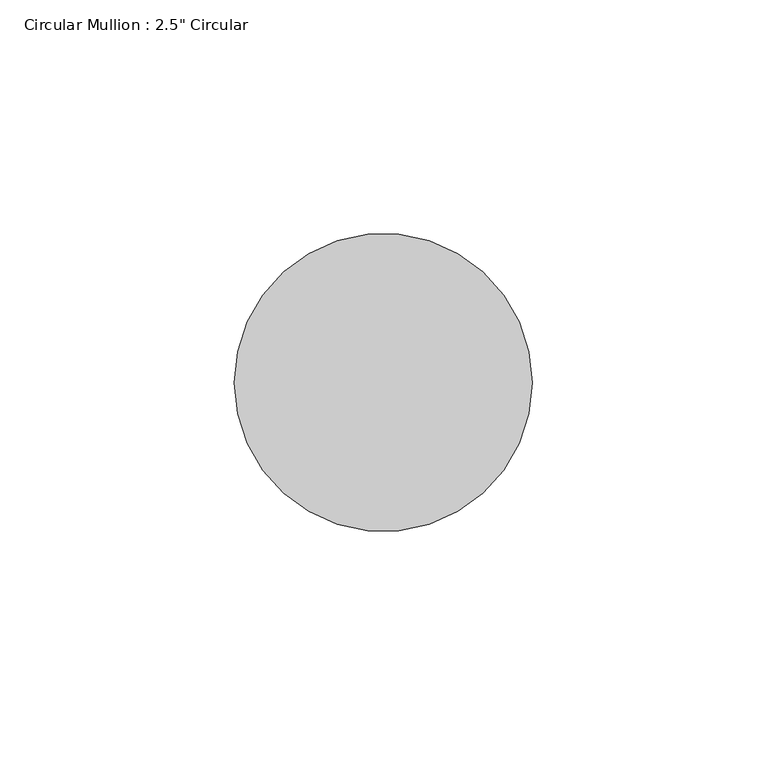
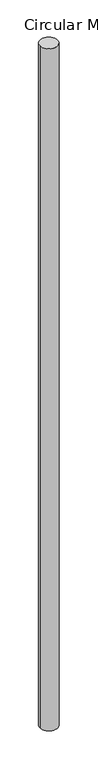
"""IFC4 building model written with IfcOpenShell, lengths in millimetres: member geometry."""

from ifc_helpers import new_model, si_unit, point, frame, origin, origin_2d, place, context, project, spatial, circle_curve, trimmed, segment, composite_curve, outline, extrude, source, transform, mapped, element, save


def member_b738fcb6(model_context):
    return source(origin(), model_context, "Body", "SweptSolid", [
        extrude(outline(composite_curve([segment(trimmed(circle_curve(origin_2d(), 31.75), [point((31.75, 0.0))], [point((-31.75, 0.0))], False, "CARTESIAN"), True, "CONTINUOUS"), segment(trimmed(circle_curve(origin_2d(), 31.75), [point((-31.75, 0.0))], [point((31.75, 0.0))], False, "CARTESIAN"), True, "CONTINUOUS")], self_intersect=False)), frame((0.0, 0.0, -2557.3329991), z_axis=(0.0, 0.0, 1.0), x_axis=(1.0, 0.0, 0.0)), (0.0, 0.0, 1.0), 2557.3329991),
    ])


if __name__ == "__main__":
    model = new_model("IFC4")
    model_context = context("Model", 3, world=origin())
    ifc_project = project(units=[si_unit("LENGTHUNIT", "METRE", prefix="MILLI")], contexts=[model_context])
    site = spatial("IfcSite", under=ifc_project)
    building = spatial("IfcBuilding", under=site)
    placement = place(None, origin())
    member_shape = member_b738fcb6(model_context)
    element("IfcMember", 1, ObjectType="Circular Mullion : 2.5\" Circular", at=placement, inside=building, context=model_context, shape_type="MappedRepresentation", body=[
        mapped(member_shape, transform((0.0, 0.0, 0.0), x_axis=(1.0, 0.0, 0.0), y_axis=(0.0, 1.0, 0.0), z_axis=(0.0, 0.0, 1.0))),
    ])
    save(model, "model.ifc")
